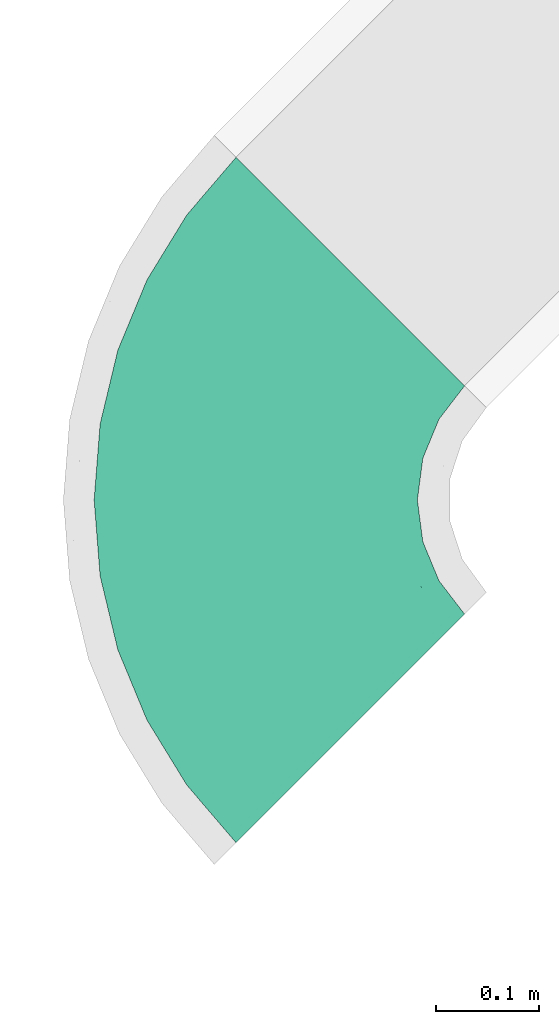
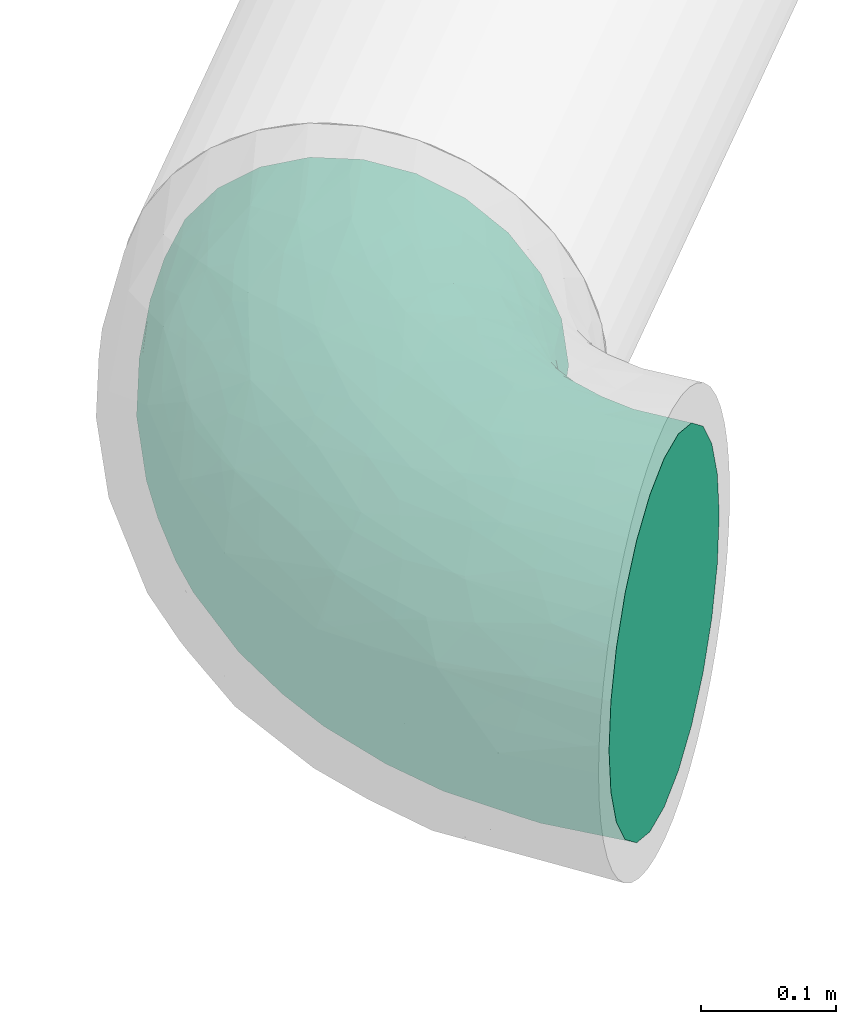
# One storey, part 7 of 7: 1 flow fitting.
"""IFC2X3 building model written with IfcOpenShell, lengths in millimetres."""

from ifc_helpers import new_model, entity, si_unit, converted_unit, derived_unit, direction, frame, origin_with_axes, place, context, subcontext, project, spatial, open_shell, surface_model, source, transform, mapped, type_object, element, save


model = new_model("IFC2X3")

# Units and contexts
model_context = context("Model", 3, precision=0.01, world=frame((0.0, 4.29681676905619e-09, 0.0)), true_north=direction((4.01073788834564e-13, 1.0)))
plan_context = context("Plan", 3, precision=0.01, world=frame((0.0, 4.29681676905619e-09, 0.0)), true_north=direction((4.01073788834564e-13, 1.0)))
body_context = subcontext(model_context, "Body", "Model", "MODEL_VIEW")
ifc_project = project(units=[converted_unit("PLANEANGLEUNIT", "DEGREE", entity("IfcPositiveLengthMeasure", 0.0174532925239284), si_unit("PLANEANGLEUNIT", "RADIAN"), dimensions=[0, 0, 0, 0, 0, 0, 0]), si_unit("AREAUNIT", "SQUARE_METRE"), si_unit("LENGTHUNIT", "METRE", prefix="MILLI"), si_unit("MASSUNIT", "GRAM", prefix="KILO"), si_unit("POWERUNIT", "WATT"), si_unit("PRESSUREUNIT", "PASCAL", prefix="KILO"), si_unit("FORCEUNIT", "NEWTON", prefix="KILO"), si_unit("ELECTRICVOLTAGEUNIT", "VOLT"), si_unit("ELECTRICCURRENTUNIT", "AMPERE"), si_unit("THERMODYNAMICTEMPERATUREUNIT", "DEGREE_CELSIUS"), si_unit("TIMEUNIT", "SECOND"), si_unit("VOLUMEUNIT", "CUBIC_METRE"), derived_unit("LINEARVELOCITYUNIT", [(si_unit("LENGTHUNIT", "METRE"), 1), (si_unit("TIMEUNIT", "SECOND"), -1)]), derived_unit("VOLUMETRICFLOWRATEUNIT", [(si_unit("VOLUMEUNIT", "CUBIC_METRE"), 1), (si_unit("TIMEUNIT", "SECOND"), -1)]), derived_unit("THERMALTRANSMITTANCEUNIT", [(si_unit("POWERUNIT", "WATT"), 1), (si_unit("THERMODYNAMICTEMPERATUREUNIT", "KELVIN"), -1), (si_unit("AREAUNIT", "SQUARE_METRE"), -1)]), derived_unit("SOUNDPRESSUREUNIT", [(si_unit("PRESSUREUNIT", "PASCAL"), 1)])], contexts=[model_context, plan_context])

# Site, building, storey
site_placement = place(None, frame((0.0, -4.29681676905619e-09, 0.0), z_axis=(0.0, 0.0, 1.0), x_axis=(1.0, 0.0, 0.0)))
site = spatial("IfcSite", under=ifc_project, at=site_placement, CompositionType="ELEMENT")
building_placement = place(site_placement, frame((0.0, 4.29681676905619e-09, 0.0), z_axis=(0.0, 0.0, 1.0), x_axis=(1.0, 0.0, 0.0)))
building = spatial("IfcBuilding", under=site, at=building_placement, Name="mc-building", CompositionType="ELEMENT")
storey_placement = place(building_placement, frame((0.0, 0.0, 207370.0), z_axis=(0.0, 0.0, 1.0), x_axis=(1.0, 0.0, 0.0)))
storey = spatial("IfcBuildingStorey", under=building, at=storey_placement, Name="Nivå E", CompositionType="ELEMENT", Elevation=207370.0)

# Flow fitting
duct_fitting_type = type_object("IfcDuctFittingType", Name="magicirc_elbow_full_radius_001", PredefinedType="BEND")
shared_shape = source(origin_with_axes(), body_context, "Body", "SurfaceModel", [
    surface_model("IfcShellBasedSurfaceModel", [(-315.0, 78.75, -136.39901), (-315.0, 40.764, -152.13332), (-315.0, 0.0, -157.5), (-315.0, 136.39901, -78.75), (-315.0, -40.764, -152.13332), (-315.0, 111.36932, -111.36932), (-315.0, -157.5, 0.0), (-315.0, -152.13332, 40.764), (-315.0, -111.36932, -111.36932), (-315.0, -152.13332, -40.764), (-315.0, -78.75, -136.39901), (-315.0, -136.39901, -78.75), (-315.0, 152.13332, -40.764), (-315.0, 152.13332, 40.764), (-315.0, 157.5, 0.0), (-315.0, 111.36932, 111.36932), (-315.0, 136.39901, 78.75), (-315.0, 78.75, 136.39901), (-315.0, 40.764, 152.13332), (-315.0, -111.36932, 111.36932), (-315.0, -78.75, 136.39901), (-315.0, -136.39901, 78.75), (-315.0, 0.0, 157.5), (-315.0, -40.764, 152.13332), (0.0, 315.0, -157.5), (-40.764, 315.0, -152.13332), (-78.75, 315.0, -136.39901), (-136.39901, 315.0, -78.75), (40.764, 315.0, -152.13332), (-111.36932, 315.0, -111.36932), (152.13332, 315.0, 40.764), (157.5, 315.0, 0.0), (78.75, 315.0, -136.39901), (152.13332, 315.0, -40.764), (111.36932, 315.0, -111.36932), (136.39901, 315.0, -78.75), (-152.13332, 315.0, -40.764), (-157.5, 315.0, 0.0), (-152.13332, 315.0, 40.764), (-111.36932, 315.0, 111.36932), (-136.39901, 315.0, 78.75), (-78.75, 315.0, 136.39901), (-40.764, 315.0, 152.13332), (136.39901, 315.0, 78.75), (78.75, 315.0, 136.39901), (111.36932, 315.0, 111.36932), (0.0, 315.0, 157.5), (40.764, 315.0, 152.13332), (-275.78673, -154.41385, 0.0), (-241.08472, -151.68274, 0.0), (-252.44974, -146.30358, 46.35165), (-187.41523, 212.23477, 44.18498), (-179.01149, 203.81739, 73.41005), (-160.11821, 234.12054, 71.62405), (-259.10789, -29.29167, 153.83069), (-244.91752, 10.986, 157.47118), (-224.67128, -127.46551, 78.41541), (-275.62484, -128.51884, 88.53098), (-239.58521, -68.78712, 137.8804), (-254.44946, -102.17277, 115.99392), (-204.97493, -89.72227, 117.91769), (-198.20454, -136.55993, 43.33884), (-148.94098, -119.38248, 47.89313), (-158.86886, -110.344, 75.73779), (39.78686, 15.52969, 50.216), (50.02524, 48.95167, 78.24133), (16.56876, 9.92294, 80.17525), (-156.73954, -92.78717, 99.09316), (-102.51279, -78.92253, 85.02595), (-126.30713, -72.38133, 106.65328), (-238.05749, 163.98734, 60.26168), (-237.20027, 147.2055, 88.84905), (-203.90523, 171.05831, 84.0913), (-99.39676, -101.96273, 31.06146), (-68.88048, -86.63056, 0.0), (-64.76022, -82.94549, 27.4714), (-194.76506, -28.32949, 149.7576), (24.59365, -9.6905, 28.83462), (43.18424, 9.08176, 0.0), (-28.15076, 147.0542, 156.53616), (-57.62232, 187.52251, 155.03024), (-72.61201, 106.84341, 157.43567), (-100.48949, -106.00058, 0.0), (-134.73948, -120.1874, 0.0), (-260.04347, 89.83524, 133.7152), (-237.26991, 125.02171, 112.97999), (-280.21215, 121.62894, 103.72153), (68.21928, 256.1901, 139.71452), (77.7719, 189.04071, 123.71299), (102.31809, 243.42041, 114.24978), (67.84442, 49.60938, 45.33346), (67.26053, 37.27147, 0.0), (90.55316, 77.99056, 29.40563), (-274.83669, 157.26153, 40.40661), (-274.67132, 145.30132, 71.02739), (-245.58363, 170.09727, 31.44943), (-158.01119, 282.57516, 29.57871), (-146.25125, 266.67126, 73.17914), (-201.21156, 99.95025, 140.23251), (-168.00076, 243.85557, 42.38557), (-236.25001, 178.601, 0.0), (-214.36106, 188.34463, 36.42869), (-203.63068, 203.63068, 0.0), (-162.86668, 274.236, 0.0), (-27.4795, -1.48331, 110.13927), (-51.96296, -33.03019, 100.52286), (-24.99652, -31.32094, 78.21218), (112.08788, 138.61937, 56.34637), (125.1619, 203.64453, 74.00759), (104.09929, 190.16434, 99.24634), (-263.88667, 52.46181, 150.1563), (6.28024, -18.02273, 54.59081), (-32.47692, -55.63747, 44.65165), (-205.03709, -143.02847, 0.0), (-151.50955, 215.6642, 97.49478), (-169.72394, 180.80582, 105.18325), (-137.80003, 192.65821, 121.95203), (-131.16131, 105.91152, 153.19188), (-137.52005, 135.51481, 144.53218), (-172.83727, 124.27225, 137.32768), (128.84491, 263.57392, 86.20478), (114.57644, 123.92915, 27.08781), (106.00058, 100.48949, 0.0), (131.75884, 176.48085, 38.42713), (143.02847, 205.03709, 0.0), (146.29642, 252.33829, 46.32598), (28.40156, 269.10441, 154.32704), (154.41385, 275.78673, 0.0), (-22.22564, 41.69116, 132.2609), (16.69324, 39.94323, 106.64404), (16.31975, 90.96952, 132.6244), (-52.03205, 254.37949, 150.89421), (153.88948, 315.0, 27.4246), (53.20704, 125.91085, 122.5592), (88.92651, 138.61761, 94.82216), (-274.236, 162.86668, 0.0), (-178.601, 236.25001, 0.0), (-168.81595, 14.50737, 156.32976), (-134.58592, -17.78306, 144.11351), (-96.06327, 24.61756, 149.79173), (-95.47965, 208.90923, 140.49399), (-78.67054, 72.23496, 155.69115), (-107.10628, 82.90122, 157.46314), (-89.91469, 266.26589, 132.78659), (-121.60296, 277.73788, 104.26598), (-11.78088, 260.70674, 157.34621), (-227.60537, 69.76326, 147.71238), (-195.7657, -66.84676, 132.57527), (-17.98791, 203.53807, 157.4841), (-60.53883, -60.45246, 74.88575), (-91.07399, -51.75682, 107.92189), (-197.57809, -110.08585, 94.49261), (-125.81015, 232.97235, 113.88738), (64.56465, 93.01368, 96.19249), (16.83328, 142.0015, 145.94195), (-22.72801, 90.93072, 148.21445), (-99.35511, 153.79, 150.7066), (57.69895, 213.45149, 140.44432), (29.76385, 212.9342, 151.06665), (41.25613, 174.00975, 141.99688), (81.24399, 84.86245, 65.51403), (-80.6457, -84.21175, 54.10058), (-119.42936, -101.75196, 60.63924), (-223.54613, 37.74243, 155.80439), (-168.22432, 88.17595, 150.9854), (-187.52253, 57.62232, 155.03024), (-196.7276, 148.24729, 112.17066), (-145.12836, 64.74974, 156.99994), (-62.1104, 49.45871, 148.77454), (-78.29466, 3.48913, 137.81789), (120.1874, 134.73948, 0.0), (134.3742, 168.98947, 0.0), (-124.07067, 168.52736, 138.84177), (0.02902, 171.95264, 154.42202), (-155.24181, 155.24181, 129.8968), (-73.90672, -22.7783, 121.68574), (-153.67663, -57.07317, 128.87412), (-113.78636, -39.32142, 127.49832), (-115.01886, 47.08507, 156.31037), (86.63056, 68.88048, 0.0), (-9.08176, -43.18424, 0.0), (19.10795, -19.10795, 0.0), (-168.98947, -134.3742, 0.0), (-37.27147, -67.26053, 0.0), (-315.0, -153.88948, 27.4246), (151.68274, 241.08472, 0.0), (-255.73532, 122.56558, -109.04479), (-214.29406, 93.80227, -140.10177), (-163.84149, 105.49727, -146.95596), (-183.82971, 59.98852, -154.94923), (-192.31906, 130.25635, -126.94074), (-214.67055, 186.05827, -42.62213), (-186.74496, 194.75879, -73.69482), (-239.00567, 164.73426, -57.54591), (84.53784, 80.13877, -52.6065), (-261.00954, 11.80363, -157.34285), (-250.44216, -29.83398, -153.37151), (-268.19836, 89.9699, -132.49512), (18.83806, 119.2151, -140.07242), (49.91254, 115.17721, -120.81771), (12.06978, 71.6341, -127.34592), (-248.07962, 169.80005, -27.2725), (-275.80747, 156.39383, -42.62213), (-196.40633, -137.77993, -37.15996), (-145.81166, -120.76195, -39.54807), (29.83399, 250.44214, -153.37151), (-188.19275, 214.15275, -37.45863), (-263.66616, 144.09279, -78.48806), (-189.95567, 165.06391, -102.28747), (43.89547, 65.88084, -99.75423), (78.16417, 108.21393, -90.03536), (-249.49402, 51.93128, -151.25871), (-315.0, -153.88948, -27.4246), (-247.57479, -102.2991, -114.91111), (-172.13573, -94.4716, -103.54526), (-203.64451, -125.1619, -74.00758), (-15.43872, -39.86246, -49.86848), (-49.56463, -70.60072, -36.85181), (-48.59952, -58.5205, -64.27403), (-252.33829, -146.29642, -46.32598), (-150.4225, 203.44707, -106.34238), (-263.57392, -128.84491, -86.20478), (-270.63117, -67.13499, -141.2369), (-215.39001, -68.32685, -135.04042), (102.2991, 247.57479, -114.91111), (-84.30908, -81.65653, -64.10818), (-91.06615, -97.14589, -32.77134), (94.4716, 172.13573, -103.54526), (68.32685, 215.39, -135.04042), (-163.2898, 237.20307, -62.64493), (-225.79476, 144.1207, -99.31867), (-157.79862, 273.70924, -39.50029), (-170.19986, 243.41794, -35.38905), (128.35851, 166.25059, -38.79853), (111.33052, 119.84284, -33.59532), (107.99483, 139.73378, -66.29524), (-159.64305, 170.07843, -119.54587), (-180.81821, -30.01596, -147.51371), (-145.25442, 275.15448, -70.89775), (-89.88491, 264.92544, -132.9879), (-44.17449, 280.59439, -151.79735), (-59.757, 315.0, -144.26616), (9.31111, -25.05617, -28.4426), (53.009, 25.90805, -37.46377), (-11.80362, 261.00954, -157.34285), (67.13499, 270.63117, -141.2369), (-92.6263, 92.62629, -157.49916), (-118.96141, 121.25661, -152.49801), (-64.39537, 156.51032, -156.4116), (-60.182, 62.8574, -151.37938), (-107.20835, 12.13665, -148.56572), (-115.08393, 49.61455, -156.55155), (128.84491, 263.57392, -86.20478), (142.02096, 205.05236, -27.6146), (29.81946, 180.40381, -147.52592), (-13.4149, 195.22557, -157.2133), (146.29642, 252.33829, -46.32598), (-37.40914, -4.7821, -114.20577), (-6.41858, -12.60422, -81.0379), (-50.98723, -38.43118, -94.2951), (-120.93204, -103.51151, -58.28641), (-96.41026, 201.21637, -141.79045), (-123.09172, 250.65074, -110.13461), (-121.89335, 288.06679, -101.98259), (-63.35086, 202.24527, -152.53228), (-222.08454, -6.89853, -156.21984), (125.1619, 203.64451, -74.00758), (-51.91054, 246.85668, -151.45138), (-161.36987, -115.89647, -67.15691), (61.05333, 59.83208, -73.20753), (-114.28437, -21.13487, -137.6727), (-72.08976, 0.21966, -134.09767), (2.17272, 150.10188, -151.66391), (-117.40709, -78.70988, -95.14777), (15.79609, -8.49924, -54.72897), (67.75002, 163.86592, -124.46846), (-163.86592, -67.75002, -124.46846), (-128.02491, 185.93738, -130.75264), (-108.32235, 160.67293, -146.80015), (-225.72616, 27.09586, -156.91411), (-54.59519, 105.68211, -156.33724), (-32.5663, 145.08674, -156.82141), (-145.37889, -8.42453, -149.28396), (-136.98265, 81.1657, -156.07826), (-156.31197, 39.80053, -157.47731), (-31.52679, 31.52678, -132.01846), (-143.53867, 148.20903, -138.06198), (-187.31767, 14.48755, -157.07868), (-19.17494, 108.97533, -150.78529), (2.87334, 23.19904, -105.99183), (32.99767, 23.1947, -73.77925), (-74.47057, -30.27504, -116.67674), (-115.17722, -49.91255, -120.81771), (153.88948, 315.0, -27.4246)], [open_shell([[[0, 1, 2]], [[3, 0, 2]], [[4, 3, 2]], [[5, 0, 3]], [[3, 6, 7]], [[8, 9, 10]], [[4, 10, 6]], [[11, 9, 8]], [[6, 10, 9]], [[6, 3, 4]], [[7, 12, 3]], [[13, 14, 15]], [[16, 13, 15]], [[17, 15, 7]], [[7, 15, 14]], [[17, 7, 18]], [[19, 20, 21]], [[7, 21, 22]], [[23, 22, 20]], [[21, 20, 22]], [[22, 18, 7]], [[12, 7, 14]], [[24, 25, 26]], [[24, 26, 27]], [[24, 27, 28]], [[27, 26, 29]], [[30, 31, 27]], [[32, 33, 34]], [[31, 32, 28]], [[34, 33, 35]], [[33, 32, 31]], [[28, 27, 31]], [[27, 36, 37]], [[27, 38, 39]], [[39, 38, 40]], [[30, 39, 41]], [[39, 30, 27]], [[41, 42, 30]], [[43, 44, 45]], [[46, 43, 30]], [[44, 46, 47]], [[46, 44, 43]], [[30, 42, 46]], [[38, 27, 37]], [[48, 49, 50]], [[51, 52, 53]], [[22, 54, 55]], [[56, 57, 50]], [[58, 59, 60]], [[23, 20, 58]], [[61, 62, 63]], [[64, 65, 66]], [[67, 68, 69]], [[70, 71, 72]], [[20, 59, 58]], [[73, 74, 75]], [[76, 54, 58]], [[64, 77, 78]], [[79, 80, 81]], [[50, 61, 56]], [[82, 73, 83]], [[84, 85, 86]], [[87, 88, 89]], [[22, 55, 18]], [[90, 91, 92]], [[93, 94, 70]], [[70, 95, 93]], [[96, 97, 38]], [[85, 84, 98]], [[99, 51, 53]], [[71, 70, 94]], [[100, 101, 102]], [[96, 103, 99]], [[14, 13, 93]], [[94, 93, 13]], [[64, 90, 65]], [[104, 105, 106]], [[107, 108, 109]], [[17, 110, 84]], [[111, 106, 112]], [[113, 50, 49]], [[20, 19, 59]], [[114, 115, 116]], [[117, 118, 119]], [[89, 44, 87]], [[19, 21, 57]], [[120, 89, 108]], [[121, 92, 122]], [[123, 124, 125]], [[46, 126, 47]], [[125, 127, 30]], [[16, 15, 86]], [[128, 129, 130]], [[120, 43, 45]], [[43, 125, 30]], [[123, 108, 107]], [[42, 41, 131]], [[127, 31, 132]], [[133, 134, 88]], [[93, 95, 135]], [[21, 7, 50]], [[99, 103, 136]], [[137, 138, 139]], [[102, 101, 51]], [[103, 96, 37]], [[140, 80, 131]], [[72, 101, 70]], [[51, 136, 102]], [[141, 81, 142]], [[131, 143, 140]], [[38, 97, 40]], [[39, 40, 144]], [[89, 45, 44]], [[145, 42, 131]], [[16, 94, 13]], [[41, 143, 131]], [[145, 46, 42]], [[15, 17, 84]], [[137, 55, 76]], [[23, 54, 22]], [[146, 84, 110]], [[58, 60, 147]], [[44, 47, 87]], [[88, 134, 109]], [[41, 39, 143]], [[80, 79, 148]], [[149, 150, 68]], [[67, 151, 63]], [[17, 18, 110]], [[84, 146, 98]], [[120, 125, 43]], [[125, 108, 123]], [[50, 7, 48]], [[50, 113, 61]], [[53, 52, 114]], [[144, 97, 152]], [[153, 129, 65]], [[111, 64, 66]], [[57, 59, 19]], [[60, 151, 67]], [[130, 133, 154]], [[129, 128, 104]], [[155, 154, 79]], [[156, 81, 80]], [[126, 87, 47]], [[157, 158, 159]], [[157, 88, 87]], [[160, 153, 65]], [[58, 54, 23]], [[55, 54, 76]], [[161, 162, 73]], [[162, 67, 63]], [[144, 143, 39]], [[143, 152, 140]], [[148, 131, 80]], [[126, 145, 158]], [[18, 55, 110]], [[163, 110, 55]], [[164, 98, 165]], [[98, 119, 166]], [[167, 117, 164]], [[140, 156, 80]], [[138, 137, 76]], [[168, 169, 128]], [[107, 134, 160]], [[89, 109, 108]], [[121, 123, 107]], [[170, 171, 123]], [[89, 120, 45]], [[125, 120, 108]], [[86, 94, 16]], [[94, 86, 71]], [[145, 126, 46]], [[126, 158, 157]], [[116, 140, 152]], [[118, 156, 172]], [[140, 116, 172]], [[81, 156, 117]], [[117, 167, 142]], [[81, 155, 79]], [[155, 130, 154]], [[148, 158, 145]], [[159, 88, 157]], [[173, 158, 148]], [[148, 79, 173]], [[131, 148, 145]], [[95, 70, 101]], [[14, 93, 135]], [[101, 100, 95]], [[135, 95, 100]], [[97, 144, 40]], [[143, 144, 152]], [[166, 71, 85]], [[71, 166, 72]], [[98, 166, 85]], [[166, 115, 72]], [[115, 166, 174]], [[101, 72, 52]], [[116, 115, 174]], [[52, 72, 115]], [[116, 174, 172]], [[114, 116, 152]], [[97, 114, 152]], [[52, 115, 114]], [[118, 172, 174]], [[140, 172, 156]], [[119, 118, 174]], [[156, 118, 117]], [[166, 119, 174]], [[119, 98, 164]], [[128, 130, 155]], [[153, 130, 129]], [[168, 128, 155]], [[104, 106, 66]], [[128, 169, 104]], [[162, 68, 67]], [[175, 150, 105]], [[176, 138, 76]], [[141, 155, 81]], [[139, 169, 168]], [[176, 69, 177]], [[147, 76, 58]], [[177, 150, 175]], [[138, 169, 139]], [[167, 137, 178]], [[137, 165, 163]], [[121, 122, 170]], [[126, 157, 87]], [[92, 121, 107]], [[123, 121, 170]], [[92, 107, 160]], [[90, 92, 160]], [[92, 91, 179]], [[65, 90, 160]], [[114, 97, 53]], [[160, 134, 153]], [[66, 65, 129]], [[134, 133, 153]], [[153, 133, 130]], [[104, 66, 129]], [[111, 66, 106]], [[149, 112, 106]], [[77, 64, 111]], [[161, 73, 75]], [[180, 181, 77]], [[77, 111, 112]], [[91, 90, 78]], [[77, 181, 78]], [[90, 64, 78]], [[97, 99, 53]], [[84, 86, 15]], [[86, 85, 71]], [[62, 61, 182]], [[151, 59, 56]], [[176, 60, 67]], [[59, 151, 60]], [[56, 61, 63]], [[56, 63, 151]], [[162, 63, 62]], [[62, 182, 83]], [[162, 161, 68]], [[149, 68, 161]], [[68, 150, 69]], [[62, 73, 162]], [[73, 82, 74]], [[183, 112, 75]], [[112, 149, 161]], [[149, 106, 105]], [[183, 75, 74]], [[112, 161, 75]], [[177, 69, 150]], [[176, 67, 69]], [[60, 176, 147]], [[76, 147, 176]], [[7, 184, 48]], [[184, 6, 48]], [[127, 125, 185]], [[127, 132, 30]], [[97, 96, 99]], [[37, 96, 38]], [[50, 57, 21]], [[59, 57, 56]], [[136, 51, 99]], [[101, 52, 51]], [[124, 123, 171]], [[124, 185, 125]], [[158, 173, 159]], [[154, 133, 159]], [[88, 159, 133]], [[83, 73, 62]], [[137, 163, 55]], [[146, 163, 165]], [[163, 146, 110]], [[98, 146, 165]], [[167, 164, 165]], [[119, 164, 117]], [[137, 167, 165]], [[167, 178, 142]], [[178, 139, 141]], [[117, 142, 81]], [[178, 141, 142]], [[155, 141, 168]], [[88, 109, 89]], [[107, 109, 134]], [[79, 154, 173]], [[173, 154, 159]], [[175, 104, 169]], [[149, 105, 150]], [[104, 175, 105]], [[177, 169, 138]], [[169, 177, 175]], [[138, 176, 177]], [[141, 139, 168]], [[139, 178, 137]], [[112, 180, 77]], [[179, 122, 92]], [[112, 183, 180]], [[113, 182, 61]], [[186, 5, 3]], [[187, 188, 189]], [[188, 187, 190]], [[191, 192, 193]], [[91, 194, 179]], [[2, 195, 196]], [[0, 5, 197]], [[198, 199, 200]], [[201, 202, 135]], [[182, 203, 204]], [[100, 201, 135]], [[28, 205, 24]], [[191, 102, 206]], [[12, 202, 207]], [[192, 208, 193]], [[209, 199, 210]], [[0, 211, 1]], [[197, 186, 187]], [[9, 48, 212]], [[213, 214, 215]], [[48, 6, 212]], [[216, 217, 218]], [[9, 11, 219]], [[192, 220, 208]], [[8, 221, 11]], [[191, 193, 201]], [[222, 196, 223]], [[10, 4, 222]], [[10, 222, 213]], [[113, 219, 203]], [[204, 82, 83]], [[32, 34, 224]], [[225, 217, 226]], [[8, 10, 213]], [[227, 228, 224]], [[229, 220, 192]], [[136, 206, 102]], [[186, 230, 190]], [[231, 229, 232]], [[233, 234, 235]], [[37, 36, 231]], [[208, 220, 236]], [[237, 223, 196]], [[238, 231, 36]], [[4, 2, 196]], [[239, 26, 240]], [[29, 26, 239]], [[232, 103, 231]], [[240, 241, 25]], [[78, 242, 243]], [[211, 0, 197]], [[24, 244, 25]], [[238, 36, 27]], [[24, 205, 244]], [[28, 245, 205]], [[180, 216, 242]], [[246, 247, 248]], [[14, 135, 202]], [[228, 245, 224]], [[234, 179, 194]], [[234, 194, 235]], [[249, 250, 251]], [[35, 252, 34]], [[28, 32, 245]], [[233, 253, 171]], [[205, 254, 255]], [[127, 185, 256]], [[33, 127, 256]], [[238, 229, 231]], [[230, 186, 207]], [[257, 258, 259]], [[35, 33, 256]], [[226, 260, 225]], [[218, 217, 225]], [[239, 261, 262]], [[263, 27, 29]], [[12, 207, 3]], [[264, 255, 248]], [[189, 211, 187]], [[265, 196, 195]], [[252, 224, 34]], [[227, 224, 266]], [[254, 205, 228]], [[244, 255, 267]], [[2, 1, 195]], [[196, 265, 237]], [[214, 213, 223]], [[221, 213, 215]], [[221, 219, 11]], [[268, 203, 215]], [[253, 185, 124]], [[252, 256, 266]], [[269, 210, 194]], [[227, 235, 210]], [[270, 250, 271]], [[198, 272, 254]], [[225, 273, 259]], [[274, 216, 258]], [[239, 267, 264]], [[263, 239, 262]], [[235, 227, 266]], [[275, 228, 227]], [[223, 276, 214]], [[214, 276, 273]], [[100, 102, 191]], [[202, 201, 193]], [[191, 201, 100]], [[191, 206, 192]], [[206, 229, 192]], [[229, 238, 220]], [[261, 277, 262]], [[277, 261, 278]], [[248, 247, 278]], [[190, 187, 186]], [[202, 193, 207]], [[14, 202, 12]], [[230, 193, 208]], [[3, 207, 186]], [[255, 244, 205]], [[26, 241, 240]], [[1, 211, 195]], [[279, 195, 211]], [[186, 197, 5]], [[211, 197, 187]], [[275, 254, 228]], [[199, 209, 200]], [[246, 249, 251]], [[280, 248, 281]], [[270, 282, 250]], [[237, 270, 276]], [[283, 251, 284]], [[285, 257, 271]], [[193, 230, 207]], [[230, 208, 190]], [[236, 190, 208]], [[188, 190, 286]], [[286, 247, 188]], [[284, 287, 189]], [[283, 188, 247]], [[189, 287, 279]], [[278, 247, 286]], [[283, 247, 246]], [[248, 278, 264]], [[255, 272, 281]], [[251, 283, 246]], [[189, 188, 283]], [[280, 249, 246]], [[250, 282, 284]], [[288, 285, 249]], [[249, 285, 271]], [[213, 221, 8]], [[219, 221, 215]], [[256, 252, 35]], [[224, 252, 266]], [[250, 249, 271]], [[285, 200, 289]], [[263, 238, 27]], [[220, 238, 262]], [[235, 266, 233]], [[210, 235, 194]], [[209, 269, 290]], [[210, 199, 275]], [[289, 209, 290]], [[209, 289, 200]], [[258, 289, 290]], [[257, 285, 289]], [[285, 288, 200]], [[198, 200, 288]], [[274, 258, 290]], [[218, 258, 216]], [[232, 229, 206]], [[37, 231, 103]], [[253, 266, 256]], [[233, 170, 234]], [[272, 198, 288]], [[275, 198, 254]], [[281, 272, 288]], [[255, 254, 272]], [[280, 281, 288]], [[255, 281, 248]], [[249, 280, 288]], [[248, 280, 246]], [[204, 268, 260]], [[74, 226, 217]], [[277, 278, 286]], [[278, 261, 264]], [[236, 277, 286]], [[262, 277, 220]], [[258, 257, 289]], [[122, 179, 234]], [[170, 233, 171]], [[170, 122, 234]], [[291, 257, 259]], [[291, 271, 257]], [[271, 291, 270]], [[276, 270, 292]], [[282, 270, 237]], [[237, 287, 282]], [[282, 287, 284]], [[273, 291, 259]], [[291, 292, 270]], [[266, 253, 233]], [[185, 253, 256]], [[224, 245, 32]], [[205, 245, 228]], [[196, 222, 4]], [[213, 222, 223]], [[243, 274, 290]], [[242, 216, 274]], [[243, 290, 269]], [[78, 181, 242]], [[243, 242, 274]], [[183, 217, 180]], [[242, 181, 180]], [[206, 136, 232]], [[124, 171, 253]], [[103, 232, 136]], [[113, 49, 219]], [[215, 203, 219]], [[48, 219, 49]], [[9, 219, 48]], [[293, 31, 127]], [[127, 33, 293]], [[239, 263, 29]], [[238, 263, 262]], [[226, 204, 260]], [[243, 91, 78]], [[74, 82, 226]], [[180, 217, 216]], [[74, 217, 183]], [[204, 203, 268]], [[260, 268, 273]], [[215, 214, 268]], [[273, 268, 214]], [[225, 259, 218]], [[258, 218, 259]], [[240, 244, 267]], [[244, 240, 25]], [[240, 267, 239]], [[194, 91, 243]], [[210, 275, 227]], [[275, 199, 198]], [[237, 276, 223]], [[273, 276, 292]], [[273, 292, 291]], [[260, 273, 225]], [[277, 236, 220]], [[190, 236, 286]], [[189, 279, 211]], [[265, 279, 287]], [[279, 265, 195]], [[237, 265, 287]], [[239, 264, 261]], [[255, 264, 267]], [[283, 284, 189]], [[284, 251, 250]], [[210, 269, 209]], [[243, 269, 194]], [[82, 204, 226]], [[83, 182, 204]], [[203, 182, 113]]])]),
])
flow_fitting_placement = place(storey_placement, frame((599049.37484, 402402.52361, 120.0), z_axis=(0.0, 0.0, 1.0), x_axis=(-0.707106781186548, -0.707106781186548, 0.0)))
element("IfcFlowFitting", 1, at=flow_fitting_placement, inside=storey, type_object=duct_fitting_type, Name="magicirc_elbow_full_radius_001", context=body_context, shape_type="MappedRepresentation", body=[
    mapped(shared_shape, transform((0.0, 0.0, 0.0), scale=1.0)),
])

save(model, "model.ifc")
